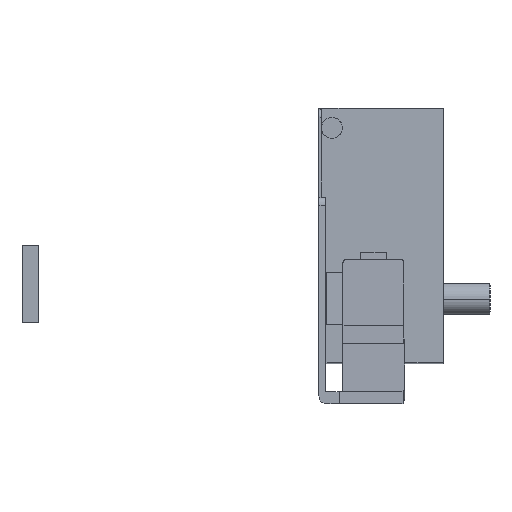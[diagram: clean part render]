
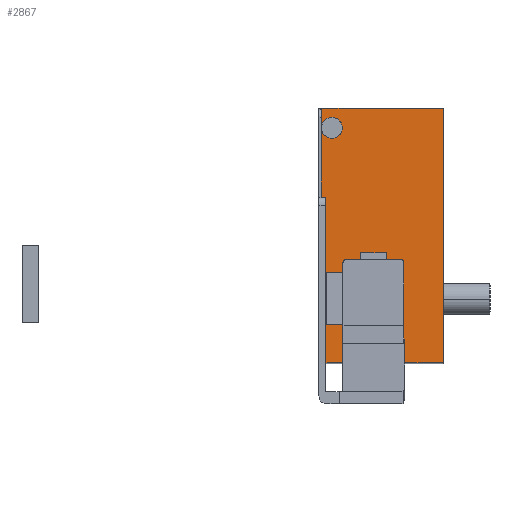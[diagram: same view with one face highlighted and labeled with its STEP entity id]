
A CAD part, front view. The second image highlights one B-rep face of the part: STEP entity #2867.
In plain terms, the highlighted planar face has unit normal (0, -1, 0.007).
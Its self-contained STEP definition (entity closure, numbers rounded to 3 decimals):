
#110 = DIRECTION ( 'NONE',  ( 0., 0.007, 1. ) ) ;
#111 = DIRECTION ( 'NONE',  ( 0., 0.007, 1. ) ) ;
#112 = CARTESIAN_POINT ( 'NONE',  ( 7.25, 521.005, -16.656 ) ) ;
#114 = CARTESIAN_POINT ( 'NONE',  ( 26.75, 521.005, -16.656 ) ) ;
#132 =( BOUNDED_CURVE ( )  B_SPLINE_CURVE ( 3, ( #4132, #4133, #4134, #4135 ),
 .UNSPECIFIED., .F., .T. ) 
 B_SPLINE_CURVE_WITH_KNOTS ( ( 4, 4 ),
 ( 4.712, 6.283 ),
 .UNSPECIFIED. ) 
 CURVE ( )  GEOMETRIC_REPRESENTATION_ITEM ( )  RATIONAL_B_SPLINE_CURVE ( ( 1., 0.805, 0.805, 1. ) ) 
 REPRESENTATION_ITEM ( '' )  );
#138 =( BOUNDED_CURVE ( )  B_SPLINE_CURVE ( 3, ( #4128, #4129, #4130, #4131 ),
 .UNSPECIFIED., .F., .T. ) 
 B_SPLINE_CURVE_WITH_KNOTS ( ( 4, 4 ),
 ( 3.142, 4.712 ),
 .UNSPECIFIED. ) 
 CURVE ( )  GEOMETRIC_REPRESENTATION_ITEM ( )  RATIONAL_B_SPLINE_CURVE ( ( 1., 0.805, 0.805, 1. ) ) 
 REPRESENTATION_ITEM ( '' )  );
#300 = CARTESIAN_POINT ( 'NONE',  ( 25.75, 520.906, -31.513 ) ) ;
#311 = CARTESIAN_POINT ( 'NONE',  ( 38.8, 521.402, 42.655 ) ) ;
#325 = CARTESIAN_POINT ( 'NONE',  ( 0., 521.059, -8.701 ) ) ;
#326 = CARTESIAN_POINT ( 'NONE',  ( 0., 521.402, 42.655 ) ) ;
#331 = CARTESIAN_POINT ( 'NONE',  ( 0., 520.871, -36.739 ) ) ;
#333 = CARTESIAN_POINT ( 'NONE',  ( 0., 520.951, -24.701 ) ) ;
#334 = CARTESIAN_POINT ( 'NONE',  ( 8., 520.951, -24.701 ) ) ;
#335 = CARTESIAN_POINT ( 'NONE',  ( 8., 521.059, -8.701 ) ) ;
#344 = CARTESIAN_POINT ( 'NONE',  ( 38.8, 520.871, -36.739 ) ) ;
#382 = CARTESIAN_POINT ( 'NONE',  ( 26.75, 520.899, -32.513 ) ) ;
#553 = DIRECTION ( 'NONE',  ( -1., 0., 0. ) ) ;
#555 = CARTESIAN_POINT ( 'NONE',  ( 26.75, 520.906, -31.513 ) ) ;
#896 = ORIENTED_EDGE ( 'NONE', *, *, #2238, .T. ) ;
#897 = ORIENTED_EDGE ( 'NONE', *, *, #2239, .T. ) ;
#898 = ORIENTED_EDGE ( 'NONE', *, *, #2240, .F. ) ;
#899 = ORIENTED_EDGE ( 'NONE', *, *, #2241, .T. ) ;
#900 = ORIENTED_EDGE ( 'NONE', *, *, #2012, .T. ) ;
#901 = ORIENTED_EDGE ( 'NONE', *, *, #2236, .T. ) ;
#902 = ORIENTED_EDGE ( 'NONE', *, *, #1951, .F. ) ;
#903 = ORIENTED_EDGE ( 'NONE', *, *, #2235, .T. ) ;
#904 = ORIENTED_EDGE ( 'NONE', *, *, #2006, .F. ) ;
#905 = ORIENTED_EDGE ( 'NONE', *, *, #2242, .T. ) ;
#906 = ORIENTED_EDGE ( 'NONE', *, *, #1844, .T. ) ;
#907 = ORIENTED_EDGE ( 'NONE', *, *, #2243, .T. ) ;
#908 = ORIENTED_EDGE ( 'NONE', *, *, #2244, .F. ) ;
#909 = ORIENTED_EDGE ( 'NONE', *, *, #2245, .F. ) ;
#1041 = EDGE_LOOP ( 'NONE', ( #896, #897, #898, #899, #900, #901, #902, #903, #904, #905, #906, #907, #908, #909 ) ) ;
#1253 = LINE ( 'NONE', #5048, #1254 ) ;
#1254 = VECTOR ( 'NONE', #5047, 1000. ) ;
#1429 = LINE ( 'NONE', #555, #1430 ) ;
#1430 = VECTOR ( 'NONE', #553, 1000. ) ;
#1529 = LINE ( 'NONE', #114, #1530 ) ;
#1530 = VECTOR ( 'NONE', #111, 1000. ) ;
#1538 = LINE ( 'NONE', #112, #1540 ) ;
#1540 = VECTOR ( 'NONE', #110, 1000. ) ;
#1844 = EDGE_CURVE ( 'NONE', #5283, #5250, #1253, .T. ) ;
#1951 = EDGE_CURVE ( 'NONE', #5239, #5091, #1429, .T. ) ;
#2006 = EDGE_CURVE ( 'NONE', #5121, #5321, #1529, .T. ) ;
#2012 = EDGE_CURVE ( 'NONE', #5088, #5092, #1538, .T. ) ;
#2235 = EDGE_CURVE ( 'NONE', #5239, #5321, #138, .T. ) ;
#2236 = EDGE_CURVE ( 'NONE', #5092, #5091, #132, .T. ) ;
#2238 = EDGE_CURVE ( 'NONE', #5274, #5273, #2973, .T. ) ;
#2239 = EDGE_CURVE ( 'NONE', #5273, #5272, #2975, .T. ) ;
#2240 = EDGE_CURVE ( 'NONE', #5270, #5272, #2977, .T. ) ;
#2241 = EDGE_CURVE ( 'NONE', #5270, #5088, #2979, .T. ) ;
#2242 = EDGE_CURVE ( 'NONE', #5121, #5283, #2981, .T. ) ;
#2243 = EDGE_CURVE ( 'NONE', #5250, #5265, #2983, .T. ) ;
#2244 = EDGE_CURVE ( 'NONE', #5264, #5265, #2985, .T. ) ;
#2245 = EDGE_CURVE ( 'NONE', #5274, #5264, #2987, .T. ) ;
#2544 = AXIS2_PLACEMENT_3D ( 'NONE', #4727, #4728, #4729 ) ;
#2867 = ADVANCED_FACE ( 'NONE', ( #3279 ), #4726, .T. ) ;
#2973 = LINE ( 'NONE', #4138, #2974 ) ;
#2974 = VECTOR ( 'NONE', #4139, 1000. ) ;
#2975 = LINE ( 'NONE', #4140, #2976 ) ;
#2976 = VECTOR ( 'NONE', #4141, 1000. ) ;
#2977 = LINE ( 'NONE', #4142, #2978 ) ;
#2978 = VECTOR ( 'NONE', #4143, 1000. ) ;
#2979 = LINE ( 'NONE', #4144, #2980 ) ;
#2980 = VECTOR ( 'NONE', #4145, 1000. ) ;
#2981 = LINE ( 'NONE', #4146, #2982 ) ;
#2982 = VECTOR ( 'NONE', #4147, 1000. ) ;
#2983 = LINE ( 'NONE', #4148, #2984 ) ;
#2984 = VECTOR ( 'NONE', #4149, 1000. ) ;
#2985 = LINE ( 'NONE', #4150, #2986 ) ;
#2986 = VECTOR ( 'NONE', #4151, 1000. ) ;
#2987 = LINE ( 'NONE', #4152, #2988 ) ;
#2988 = VECTOR ( 'NONE', #4153, 1000. ) ;
#3279 = FACE_OUTER_BOUND ( 'NONE', #1041, .T. ) ;
#4128 = CARTESIAN_POINT ( 'NONE',  ( 25.75, 520.906, -31.513 ) ) ;
#4129 = CARTESIAN_POINT ( 'NONE',  ( 26.336, 520.906, -31.513 ) ) ;
#4130 = CARTESIAN_POINT ( 'NONE',  ( 26.75, 520.903, -31.927 ) ) ;
#4131 = CARTESIAN_POINT ( 'NONE',  ( 26.75, 520.899, -32.513 ) ) ;
#4132 = CARTESIAN_POINT ( 'NONE',  ( 7.25, 520.899, -32.513 ) ) ;
#4133 = CARTESIAN_POINT ( 'NONE',  ( 7.25, 520.903, -31.927 ) ) ;
#4134 = CARTESIAN_POINT ( 'NONE',  ( 7.664, 520.906, -31.513 ) ) ;
#4135 = CARTESIAN_POINT ( 'NONE',  ( 8.25, 520.906, -31.513 ) ) ;
#4138 = CARTESIAN_POINT ( 'NONE',  ( 8., 520.804, -46.7 ) ) ;
#4139 = DIRECTION ( 'NONE',  ( 0., -0.007, -1. ) ) ;
#4140 = CARTESIAN_POINT ( 'NONE',  ( 2.5, 520.951, -24.701 ) ) ;
#4141 = DIRECTION ( 'NONE',  ( -1., 0., 0. ) ) ;
#4142 = CARTESIAN_POINT ( 'NONE',  ( 0., 520.804, -46.7 ) ) ;
#4143 = DIRECTION ( 'NONE',  ( 0., 0.007, 1. ) ) ;
#4144 = CARTESIAN_POINT ( 'NONE',  ( 7.25, 520.871, -36.739 ) ) ;
#4145 = DIRECTION ( 'NONE',  ( 1., 0., 0. ) ) ;
#4146 = CARTESIAN_POINT ( 'NONE',  ( 38.8, 520.871, -36.739 ) ) ;
#4147 = DIRECTION ( 'NONE',  ( 1., 0., 0. ) ) ;
#4148 = CARTESIAN_POINT ( 'NONE',  ( 38.8, 521.402, 42.655 ) ) ;
#4149 = DIRECTION ( 'NONE',  ( -1., 0., 0. ) ) ;
#4150 = CARTESIAN_POINT ( 'NONE',  ( 0., 520.804, -46.7 ) ) ;
#4151 = DIRECTION ( 'NONE',  ( 0., 0.007, 1. ) ) ;
#4152 = CARTESIAN_POINT ( 'NONE',  ( 2.5, 521.059, -8.701 ) ) ;
#4153 = DIRECTION ( 'NONE',  ( -1., 0., 0. ) ) ;
#4726 = PLANE ( 'NONE',  #2544 ) ;
#4727 = CARTESIAN_POINT ( 'NONE',  ( 38.8, 520.804, -46.7 ) ) ;
#4728 = DIRECTION ( 'NONE',  ( 0., -1., 0.007 ) ) ;
#4729 = DIRECTION ( 'NONE',  ( 0., 0.007, 1. ) ) ;
#4852 = CARTESIAN_POINT ( 'NONE',  ( 7.25, 520.871, -36.739 ) ) ;
#4855 = CARTESIAN_POINT ( 'NONE',  ( 8.25, 520.906, -31.513 ) ) ;
#4856 = CARTESIAN_POINT ( 'NONE',  ( 7.25, 520.899, -32.513 ) ) ;
#4885 = CARTESIAN_POINT ( 'NONE',  ( 26.75, 520.871, -36.739 ) ) ;
#5047 = DIRECTION ( 'NONE',  ( 0., 0.007, 1. ) ) ;
#5048 = CARTESIAN_POINT ( 'NONE',  ( 38.8, 520.804, -46.7 ) ) ;
#5088 = VERTEX_POINT ( 'NONE', #4852 ) ;
#5091 = VERTEX_POINT ( 'NONE', #4855 ) ;
#5092 = VERTEX_POINT ( 'NONE', #4856 ) ;
#5121 = VERTEX_POINT ( 'NONE', #4885 ) ;
#5239 = VERTEX_POINT ( 'NONE', #300 ) ;
#5250 = VERTEX_POINT ( 'NONE', #311 ) ;
#5264 = VERTEX_POINT ( 'NONE', #325 ) ;
#5265 = VERTEX_POINT ( 'NONE', #326 ) ;
#5270 = VERTEX_POINT ( 'NONE', #331 ) ;
#5272 = VERTEX_POINT ( 'NONE', #333 ) ;
#5273 = VERTEX_POINT ( 'NONE', #334 ) ;
#5274 = VERTEX_POINT ( 'NONE', #335 ) ;
#5283 = VERTEX_POINT ( 'NONE', #344 ) ;
#5321 = VERTEX_POINT ( 'NONE', #382 ) ;
